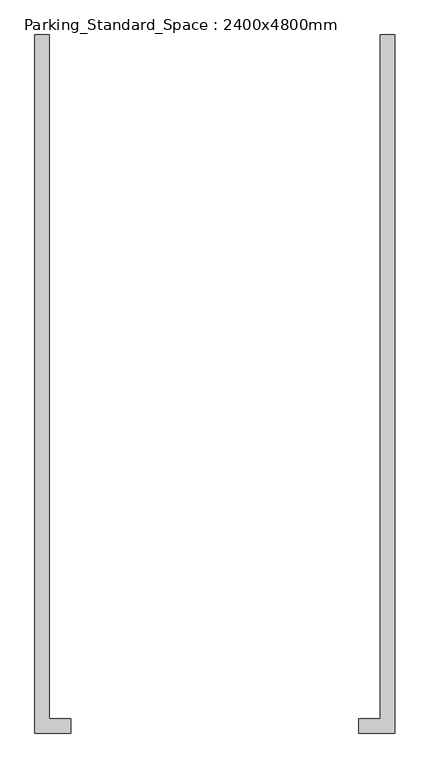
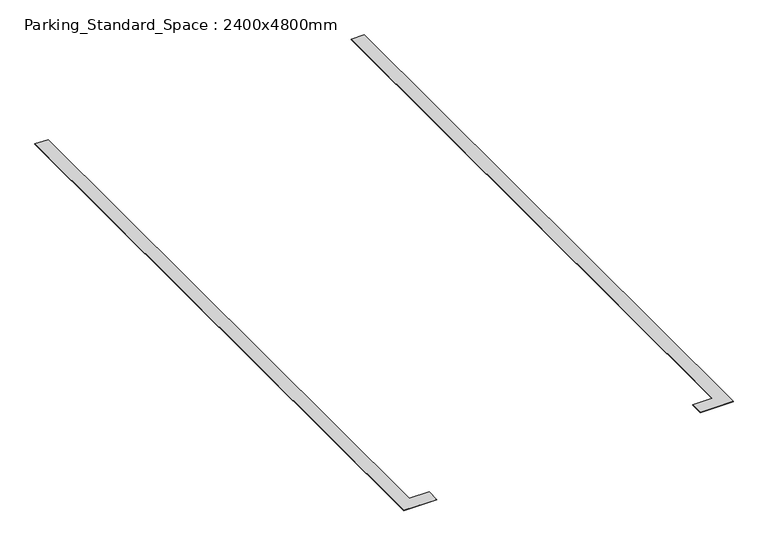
"""IFC4 building model written with IfcOpenShell, lengths in millimetres: proxy geometry, Parking_Standard_Space : 2400x4800mm."""

import ifcopenshell
import ifcopenshell.guid

model = None  # the IFC model being written
_history = None  # IfcOwnerHistory: only IFC2X3 demands one
_inside = {}  # id of a spatial element -> (the spatial element, [elements in it])
_under = {}  # id of a project, library or spatial element -> (it, [spatial elements below it])
_declared = {}  # id of a project -> (the project, [libraries it declares])
_typed = {}  # id of a type object -> (the type object, [elements of that type])
_made_of = {}  # id of a material, layer set ... -> (it, [elements and type objects made of it])


def new_model(schema):
    """Start an empty IFC model of exactly this schema.

    Asked for "IFC4X3", IfcOpenShell would pick the latest addendum, in which some entities
    have other attributes; the version numbers below select the first issue.
    IFC2X3 requires an IfcOwnerHistory on every rooted entity: one is made here for all.
    """
    global model, _history
    if schema == "IFC4X3":
        model = ifcopenshell.file(schema_version=(4, 3, 0, 0))
    else:
        model = ifcopenshell.file(schema=schema)
    _inside.clear()
    _under.clear()
    _declared.clear()
    _typed.clear()
    _made_of.clear()
    _history = None
    if model.schema == "IFC2X3":
        org = make("IfcOrganization", Name="unknown")
        user = make(
            "IfcPersonAndOrganization",
            ThePerson=make("IfcPerson", FamilyName="unknown"),
            TheOrganization=org,
        )
        app = make(
            "IfcApplication",
            ApplicationDeveloper=org,
            Version="unknown",
            ApplicationFullName="unknown",
            ApplicationIdentifier="unknown",
        )
        _history = make(
            "IfcOwnerHistory",
            OwningUser=user,
            OwningApplication=app,
            ChangeAction="ADDED",
            CreationDate=0,
        )
    return model


def make(cls, **values):
    """One entity of the class cls with the attributes given. An attribute that is None is left unset."""
    return model.create_entity(
        cls, **{name: value for name, value in values.items() if value is not None}
    )


def rooted(cls, **values):
    """An entity with a GlobalId (a new one), such as an element, a storey or a relation."""
    return make(cls, GlobalId=ifcopenshell.guid.new(), OwnerHistory=_history, **values)


def si_unit(unit_type, name, prefix=None):
    """IfcSIUnit, for example si_unit("LENGTHUNIT", "METRE", prefix="MILLI")."""
    return make("IfcSIUnit", UnitType=unit_type, Prefix=prefix, Name=name)


def assignment(units):
    """IfcUnitAssignment: the units of a project."""
    return None if units is None else make("IfcUnitAssignment", Units=units)


def point(xyz):
    """IfcCartesianPoint."""
    return None if xyz is None else make("IfcCartesianPoint", Coordinates=xyz)


def direction(xyz):
    """IfcDirection."""
    return None if xyz is None else make("IfcDirection", DirectionRatios=xyz)


def frame(location, z_axis=None, x_axis=None):
    """IfcAxis2Placement3D, a coordinate frame: its origin and axes. An axis left out is left unset."""
    return make(
        "IfcAxis2Placement3D",
        Location=point(location),
        Axis=direction(z_axis),
        RefDirection=direction(x_axis),
    )


def origin():
    """The frame at (0, 0, 0) with its axes left unset."""
    return frame((0.0, 0.0, 0.0))


def origin_with_axes():
    """The frame at (0, 0, 0) with the z axis (0, 0, 1) and the x axis (1, 0, 0) written out."""
    return frame((0.0, 0.0, 0.0), z_axis=(0.0, 0.0, 1.0), x_axis=(1.0, 0.0, 0.0))


def place(relative_to, where):
    """IfcLocalPlacement: puts the frame where relative to a parent placement (None: the world)."""
    return make(
        "IfcLocalPlacement", PlacementRelTo=relative_to, RelativePlacement=where
    )


def context(
    kind, dimensions, precision=None, world=None, true_north=None, identifier=None
):
    """IfcGeometricRepresentationContext, for example the 3D "Model" context."""
    return make(
        "IfcGeometricRepresentationContext",
        ContextIdentifier=identifier,
        ContextType=kind,
        CoordinateSpaceDimension=dimensions,
        Precision=precision,
        WorldCoordinateSystem=world,
        TrueNorth=true_north,
    )


def project(units=None, contexts=None):
    """IfcProject with its units and contexts."""
    return rooted(
        "IfcProject",
        Name="project",
        RepresentationContexts=contexts,
        UnitsInContext=assignment(units),
    )


def spatial(cls, under=None, at=None, **own):
    """A site, building, storey or space (cls), placed at a placement, below another one or the project."""
    s = rooted(cls, ObjectPlacement=at, **own)
    if under is not None:
        _under.setdefault(under.id(), (under, []))[1].append(s)
    return s


def polyline(points):
    """IfcPolyline through the points."""
    return make("IfcPolyline", Points=[point(p) for p in points])


def outline(outer, holes=None, kind="AREA"):
    """IfcArbitraryClosedProfileDef: a profile drawn as a closed curve; with holes, ...WithVoids."""
    if holes is None:
        return make("IfcArbitraryClosedProfileDef", ProfileType=kind, OuterCurve=outer)
    return make(
        "IfcArbitraryProfileDefWithVoids",
        ProfileType=kind,
        OuterCurve=outer,
        InnerCurves=holes,
    )


def extrude(swept, where, along, depth):
    """IfcExtrudedAreaSolid: the profile swept, set in the frame where, extruded along a direction by depth."""
    return make(
        "IfcExtrudedAreaSolid",
        SweptArea=swept,
        Position=where,
        ExtrudedDirection=direction(along),
        Depth=depth,
    )


def shape(context_of_items, identifier, shape_type, items):
    """IfcShapeRepresentation: the items that make up one representation, for example the "Body"."""
    return make(
        "IfcShapeRepresentation",
        ContextOfItems=context_of_items,
        RepresentationIdentifier=identifier,
        RepresentationType=shape_type,
        Items=items,
    )


def source(mapping_origin, context_of_items, identifier, shape_type, items):
    """IfcRepresentationMap: a shape defined once, which mapped items show again and again."""
    return make(
        "IfcRepresentationMap",
        MappingOrigin=mapping_origin,
        MappedRepresentation=shape(context_of_items, identifier, shape_type, items),
    )


def transform(
    local_origin,
    x_axis=None,
    y_axis=None,
    z_axis=None,
    scale=None,
    scale2=None,
    scale3=None,
    uniform=True,
):
    """IfcCartesianTransformationOperator3D, or its non-uniform kind. x_axis, y_axis, z_axis: its Axis1, 2, 3."""
    if uniform:
        return make(
            "IfcCartesianTransformationOperator3D",
            Axis1=direction(x_axis),
            Axis2=direction(y_axis),
            LocalOrigin=point(local_origin),
            Scale=scale,
            Axis3=direction(z_axis),
        )
    return make(
        "IfcCartesianTransformationOperator3DnonUniform",
        Axis1=direction(x_axis),
        Axis2=direction(y_axis),
        LocalOrigin=point(local_origin),
        Scale=scale,
        Axis3=direction(z_axis),
        Scale2=scale2,
        Scale3=scale3,
    )


def mapped(mapping_source, mapping_target):
    """IfcMappedItem: shows the shape of a source again, moved by a transform."""
    return make(
        "IfcMappedItem", MappingSource=mapping_source, MappingTarget=mapping_target
    )


def made_of(thing, what):
    """Note that an element or type object is made of a material, layer set ...; save() writes the relation."""
    if what is not None:
        _made_of.setdefault(what.id(), (what, []))[1].append(thing)
    return thing


def element(
    cls,
    number,
    at=None,
    inside=None,
    cuts=None,
    type_object=None,
    material=None,
    context=None,
    identifier="Body",
    shape_type=None,
    held_by="IfcProductDefinitionShape",
    body=None,
    shapes=None,
    **own,
):
    """One element of the class cls, such as IfcWall. Its Tag is "e" and its number.

    at: its placement. inside: the storey or other place that contains it. cuts: it is an
    opening in that element (IfcRelVoidsElement). A single representation is given by context,
    identifier, shape_type and body (its items); several are given by shapes. held_by: the class
    of the entity that holds the representations. save() writes the other relations.
    """
    e = rooted(cls, Tag="e%d" % number, ObjectPlacement=at, **own)
    if body is not None:
        shapes = [shape(context, identifier, shape_type, body)]
    if shapes is not None:
        e.Representation = make(held_by, Representations=shapes)
    if inside is not None:
        _inside.setdefault(inside.id(), (inside, []))[1].append(e)
    if cuts is not None:
        rooted(
            "IfcRelVoidsElement", RelatingBuildingElement=cuts, RelatedOpeningElement=e
        )
    if type_object is not None:
        _typed.setdefault(type_object.id(), (type_object, []))[1].append(e)
    return made_of(e, material)


def aggregate(whole, parts):
    """IfcRelAggregates: a whole, such as a stair, and the parts it consists of."""
    return rooted("IfcRelAggregates", RelatingObject=whole, RelatedObjects=parts)


def save(model, path):
    """Write the relations noted so far, then the file.

    IfcRelAggregates (storeys below a building ...), IfcRelContainedInSpatialStructure (elements
    in a storey), IfcRelDefinesByType, IfcRelAssociatesMaterial and IfcRelDeclares: one each for
    every whole, place, type object, material and project.
    """
    for whole, parts in _under.values():
        aggregate(whole, parts)
    for where, things in _inside.values():
        rooted(
            "IfcRelContainedInSpatialStructure",
            RelatedElements=things,
            RelatingStructure=where,
        )
    for kind, things in _typed.values():
        rooted("IfcRelDefinesByType", RelatedObjects=things, RelatingType=kind)
    for what, things in _made_of.values():
        rooted("IfcRelAssociatesMaterial", RelatedObjects=things, RelatingMaterial=what)
    for by, libraries in _declared.values():
        rooted("IfcRelDeclares", RelatingContext=by, RelatedDefinitions=libraries)
    model.write(path)


def parking_standard_space_2400x4800mm_45f6516b(model_context):
    return source(origin(), model_context, "Body", "SweptSolid", [
        extrude(outline(polyline([(2350.0, 0.0), (2450.0, 0.0), (2450.0, -4850.0), (2200.0, -4850.0), (2200.0, -4750.0), (2350.0, -4750.0), (2350.0, 0.0)])), origin_with_axes(), (0.0, 0.0, 1.0), 3.175),
        extrude(outline(polyline([(-50.0, 0.0), (50.0, 0.0), (50.0, -4750.0), (200.0, -4750.0), (200.0, -4850.0), (-50.0, -4850.0), (-50.0, 0.0)])), origin_with_axes(), (0.0, 0.0, 1.0), 3.175),
    ])


if __name__ == "__main__":
    model = new_model("IFC4")
    model_context = context("Model", 3, world=origin())
    ifc_project = project(units=[si_unit("LENGTHUNIT", "METRE", prefix="MILLI")], contexts=[model_context])
    site = spatial("IfcSite", under=ifc_project)
    building = spatial("IfcBuilding", under=site)
    placement = place(None, origin())
    parking_standard_space_2400x4800mm_shape = parking_standard_space_2400x4800mm_45f6516b(model_context)
    element("IfcBuildingElementProxy", 1, Name="Parking_Standard_Space : 2400x4800mm", ObjectType="Parking_Standard_Space : 2400x4800mm", at=placement, inside=building, context=model_context, shape_type="MappedRepresentation", body=[
        mapped(parking_standard_space_2400x4800mm_shape, transform((0.0, 0.0, 0.0), x_axis=(1.0, 0.0, 0.0), y_axis=(0.0, 1.0, 0.0), z_axis=(0.0, 0.0, 1.0))),
    ])
    save(model, "model.ifc")
